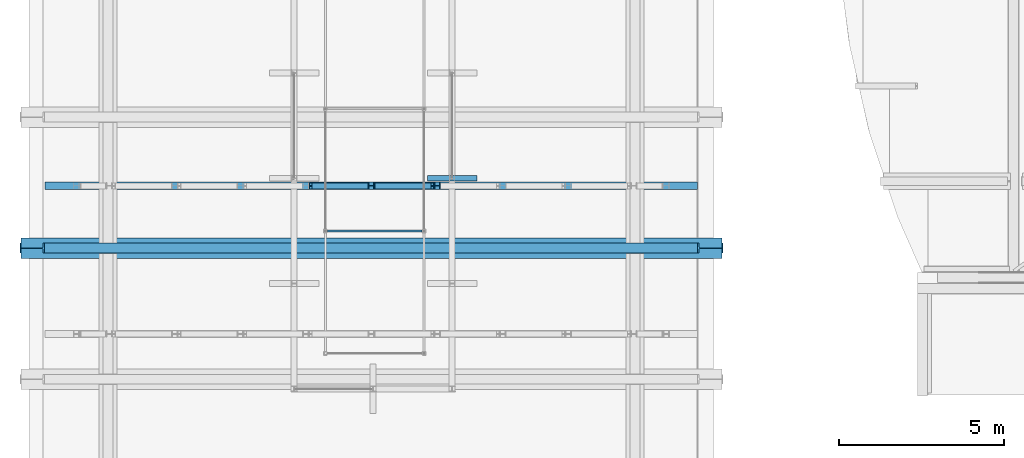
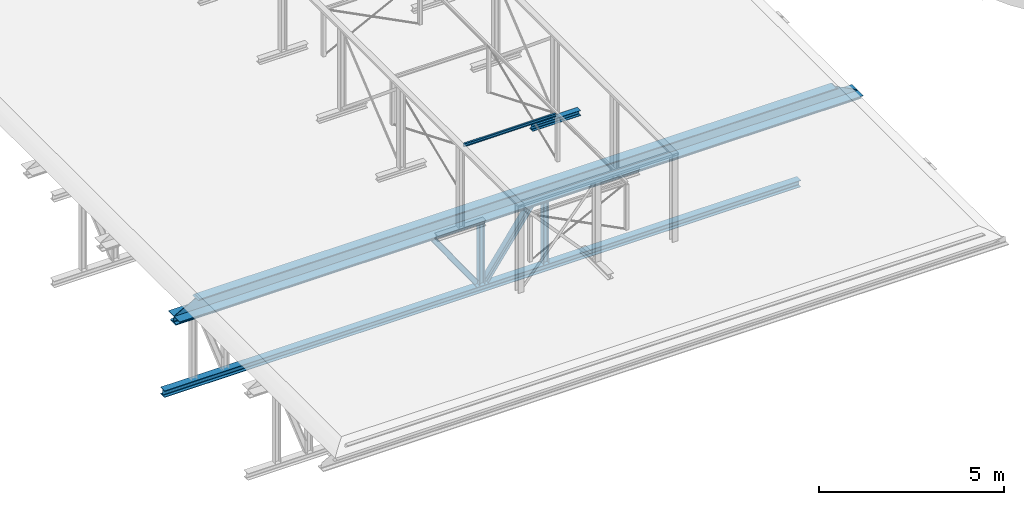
# One storey, part 11 of 50: 8 beams.
"""IFC2X3 building model written with IfcOpenShell, lengths in millimetres."""

import ifcopenshell
import ifcopenshell.guid

model = None  # the IFC model being written
_history = None  # IfcOwnerHistory: only IFC2X3 demands one
_inside = {}  # id of a spatial element -> (the spatial element, [elements in it])
_under = {}  # id of a project, library or spatial element -> (it, [spatial elements below it])
_declared = {}  # id of a project -> (the project, [libraries it declares])
_typed = {}  # id of a type object -> (the type object, [elements of that type])
_made_of = {}  # id of a material, layer set ... -> (it, [elements and type objects made of it])


def new_model(schema):
    """Start an empty IFC model of exactly this schema.

    Asked for "IFC4X3", IfcOpenShell would pick the latest addendum, in which some entities
    have other attributes; the version numbers below select the first issue.
    IFC2X3 requires an IfcOwnerHistory on every rooted entity: one is made here for all.
    """
    global model, _history
    if schema == "IFC4X3":
        model = ifcopenshell.file(schema_version=(4, 3, 0, 0))
    else:
        model = ifcopenshell.file(schema=schema)
    _inside.clear()
    _under.clear()
    _declared.clear()
    _typed.clear()
    _made_of.clear()
    _history = None
    if model.schema == "IFC2X3":
        org = make("IfcOrganization", Name="unknown")
        user = make(
            "IfcPersonAndOrganization",
            ThePerson=make("IfcPerson", FamilyName="unknown"),
            TheOrganization=org,
        )
        app = make(
            "IfcApplication",
            ApplicationDeveloper=org,
            Version="unknown",
            ApplicationFullName="unknown",
            ApplicationIdentifier="unknown",
        )
        _history = make(
            "IfcOwnerHistory",
            OwningUser=user,
            OwningApplication=app,
            ChangeAction="ADDED",
            CreationDate=0,
        )
    return model


def make(cls, **values):
    """One entity of the class cls with the attributes given. An attribute that is None is left unset."""
    return model.create_entity(
        cls, **{name: value for name, value in values.items() if value is not None}
    )


def entity(cls, *values):
    """Any entity or typed value of the class cls, its attributes in the order of the schema. None: left unset."""
    e = model.create_entity(cls)
    for i, value in enumerate(values):
        if value is not None:
            e[i] = value
    return e


def rooted(cls, **values):
    """An entity with a GlobalId (a new one), such as an element, a storey or a relation."""
    return make(cls, GlobalId=ifcopenshell.guid.new(), OwnerHistory=_history, **values)


def si_unit(unit_type, name, prefix=None):
    """IfcSIUnit, for example si_unit("LENGTHUNIT", "METRE", prefix="MILLI")."""
    return make("IfcSIUnit", UnitType=unit_type, Prefix=prefix, Name=name)


def converted_unit(unit_type, name, factor, base, dimensions=None, offset=None):
    """IfcConversionBasedUnit, such as the inch: factor (a typed value) times the base unit."""
    return make(
        "IfcConversionBasedUnit"
        if offset is None
        else "IfcConversionBasedUnitWithOffset",
        ConversionOffset=offset,
        Dimensions=None
        if dimensions is None
        else entity("IfcDimensionalExponents", *dimensions),
        UnitType=unit_type,
        Name=name,
        ConversionFactor=make(
            "IfcMeasureWithUnit", ValueComponent=factor, UnitComponent=base
        ),
    )


def derived_unit(unit_type, elements):
    """IfcDerivedUnit: a product of units, each with its exponent."""
    return make(
        "IfcDerivedUnit",
        Elements=[
            make("IfcDerivedUnitElement", Unit=unit, Exponent=power)
            for unit, power in elements
        ],
        UnitType=unit_type,
    )


def assignment(units):
    """IfcUnitAssignment: the units of a project."""
    return None if units is None else make("IfcUnitAssignment", Units=units)


def point(xyz):
    """IfcCartesianPoint."""
    return None if xyz is None else make("IfcCartesianPoint", Coordinates=xyz)


def direction(xyz):
    """IfcDirection."""
    return None if xyz is None else make("IfcDirection", DirectionRatios=xyz)


def frame(location, z_axis=None, x_axis=None):
    """IfcAxis2Placement3D, a coordinate frame: its origin and axes. An axis left out is left unset."""
    return make(
        "IfcAxis2Placement3D",
        Location=point(location),
        Axis=direction(z_axis),
        RefDirection=direction(x_axis),
    )


def frame_2d(location, x_axis=None):
    """IfcAxis2Placement2D, a coordinate frame in the plane: its origin and x axis."""
    return make(
        "IfcAxis2Placement2D", Location=point(location), RefDirection=direction(x_axis)
    )


def origin():
    """The frame at (0, 0, 0) with its axes left unset."""
    return frame((0.0, 0.0, 0.0))


def place(relative_to, where):
    """IfcLocalPlacement: puts the frame where relative to a parent placement (None: the world)."""
    return make(
        "IfcLocalPlacement", PlacementRelTo=relative_to, RelativePlacement=where
    )


def context(
    kind, dimensions, precision=None, world=None, true_north=None, identifier=None
):
    """IfcGeometricRepresentationContext, for example the 3D "Model" context."""
    return make(
        "IfcGeometricRepresentationContext",
        ContextIdentifier=identifier,
        ContextType=kind,
        CoordinateSpaceDimension=dimensions,
        Precision=precision,
        WorldCoordinateSystem=world,
        TrueNorth=true_north,
    )


def subcontext(parent, identifier, kind, view, scale=None):
    """IfcGeometricRepresentationSubContext, for example "Body" below "Model"."""
    return make(
        "IfcGeometricRepresentationSubContext",
        ContextIdentifier=identifier,
        ContextType=kind,
        ParentContext=parent,
        TargetScale=scale,
        TargetView=view,
    )


def project(units=None, contexts=None):
    """IfcProject with its units and contexts."""
    return rooted(
        "IfcProject",
        Name="project",
        RepresentationContexts=contexts,
        UnitsInContext=assignment(units),
    )


def spatial(cls, under=None, at=None, **own):
    """A site, building, storey or space (cls), placed at a placement, below another one or the project."""
    s = rooted(cls, ObjectPlacement=at, **own)
    if under is not None:
        _under.setdefault(under.id(), (under, []))[1].append(s)
    return s


def polyline(points):
    """IfcPolyline through the points."""
    return make("IfcPolyline", Points=[point(p) for p in points])


def circle_curve(where, radius):
    """IfcCircle in the frame where."""
    return make("IfcCircle", Position=where, Radius=radius)


def parameter(value):
    """IfcParameterValue: where a trimmed curve begins or ends, as a parameter of its basis curve."""
    return model.create_entity("IfcParameterValue", value)


def trimmed(basis, trim1, trim2, sense, master):
    """IfcTrimmedCurve: the piece of a basis curve between two trims."""
    return make(
        "IfcTrimmedCurve",
        BasisCurve=basis,
        Trim1=trim1,
        Trim2=trim2,
        SenseAgreement=sense,
        MasterRepresentation=master,
    )


def segment(curve, same_sense, transition):
    """IfcCompositeCurveSegment."""
    return make(
        "IfcCompositeCurveSegment",
        Transition=transition,
        SameSense=same_sense,
        ParentCurve=curve,
    )


def composite_curve(segments, self_intersect=None):
    """IfcCompositeCurve: segments joined end to end."""
    return make("IfcCompositeCurve", Segments=segments, SelfIntersect=self_intersect)


def profile(cls, at=None, kind="AREA", **sizes):
    """A parametric profile (cls). Its sizes go by their IFC names, for example OverallWidth=200.0."""
    return make(cls, ProfileType=kind, Position=at, **sizes)


def rectangle(**sizes):
    """IfcRectangleProfileDef."""
    return profile("IfcRectangleProfileDef", **sizes)


def i_section(**sizes):
    """IfcIShapeProfileDef."""
    return profile("IfcIShapeProfileDef", **sizes)


def outline(outer, holes=None, kind="AREA"):
    """IfcArbitraryClosedProfileDef: a profile drawn as a closed curve; with holes, ...WithVoids."""
    if holes is None:
        return make("IfcArbitraryClosedProfileDef", ProfileType=kind, OuterCurve=outer)
    return make(
        "IfcArbitraryProfileDefWithVoids",
        ProfileType=kind,
        OuterCurve=outer,
        InnerCurves=holes,
    )


def extrude(swept, where, along, depth):
    """IfcExtrudedAreaSolid: the profile swept, set in the frame where, extruded along a direction by depth."""
    return make(
        "IfcExtrudedAreaSolid",
        SweptArea=swept,
        Position=where,
        ExtrudedDirection=direction(along),
        Depth=depth,
    )


def clip(a, b, op="DIFFERENCE"):
    """IfcBooleanClippingResult: the solid a cut by the half space b."""
    return make(
        "IfcBooleanClippingResult", Operator=op, FirstOperand=a, SecondOperand=b
    )


def halfspace(plane, agree):
    """IfcHalfSpaceSolid: all space on one side of the plane z = 0 of the frame plane."""
    return make(
        "IfcHalfSpaceSolid",
        BaseSurface=make("IfcPlane", Position=plane),
        AgreementFlag=agree,
    )


def bounded_halfspace(plane, agree, where, boundary):
    """IfcPolygonalBoundedHalfSpace: a half space limited to a polygon's prism."""
    return make(
        "IfcPolygonalBoundedHalfSpace",
        BaseSurface=make("IfcPlane", Position=plane),
        AgreementFlag=agree,
        Position=where,
        PolygonalBoundary=boundary,
    )


def shape(context_of_items, identifier, shape_type, items):
    """IfcShapeRepresentation: the items that make up one representation, for example the "Body"."""
    return make(
        "IfcShapeRepresentation",
        ContextOfItems=context_of_items,
        RepresentationIdentifier=identifier,
        RepresentationType=shape_type,
        Items=items,
    )


def source(mapping_origin, context_of_items, identifier, shape_type, items):
    """IfcRepresentationMap: a shape defined once, which mapped items show again and again."""
    return make(
        "IfcRepresentationMap",
        MappingOrigin=mapping_origin,
        MappedRepresentation=shape(context_of_items, identifier, shape_type, items),
    )


def transform(
    local_origin,
    x_axis=None,
    y_axis=None,
    z_axis=None,
    scale=None,
    scale2=None,
    scale3=None,
    uniform=True,
):
    """IfcCartesianTransformationOperator3D, or its non-uniform kind. x_axis, y_axis, z_axis: its Axis1, 2, 3."""
    if uniform:
        return make(
            "IfcCartesianTransformationOperator3D",
            Axis1=direction(x_axis),
            Axis2=direction(y_axis),
            LocalOrigin=point(local_origin),
            Scale=scale,
            Axis3=direction(z_axis),
        )
    return make(
        "IfcCartesianTransformationOperator3DnonUniform",
        Axis1=direction(x_axis),
        Axis2=direction(y_axis),
        LocalOrigin=point(local_origin),
        Scale=scale,
        Axis3=direction(z_axis),
        Scale2=scale2,
        Scale3=scale3,
    )


def mapped(mapping_source, mapping_target):
    """IfcMappedItem: shows the shape of a source again, moved by a transform."""
    return make(
        "IfcMappedItem", MappingSource=mapping_source, MappingTarget=mapping_target
    )


def material(Name=None, Category=None):
    """IfcMaterial."""
    return make("IfcMaterial", Name=Name, Category=Category)


def material_list(materials):
    """IfcMaterialList."""
    return make("IfcMaterialList", Materials=materials)


def made_of(thing, what):
    """Note that an element or type object is made of a material, layer set ...; save() writes the relation."""
    if what is not None:
        _made_of.setdefault(what.id(), (what, []))[1].append(thing)
    return thing


def type_object(cls, material=None, **own):
    """A type object (cls), such as IfcWallType, which elements share."""
    return made_of(rooted(cls, **own), material)


def type_shapes(of_type, sources):
    """Give a type object the sources (RepresentationMaps) that its elements show as mapped items."""
    of_type.RepresentationMaps = sources


def element(
    cls,
    number,
    at=None,
    inside=None,
    cuts=None,
    type_object=None,
    material=None,
    context=None,
    identifier="Body",
    shape_type=None,
    held_by="IfcProductDefinitionShape",
    body=None,
    shapes=None,
    **own,
):
    """One element of the class cls, such as IfcWall. Its Tag is "e" and its number.

    at: its placement. inside: the storey or other place that contains it. cuts: it is an
    opening in that element (IfcRelVoidsElement). A single representation is given by context,
    identifier, shape_type and body (its items); several are given by shapes. held_by: the class
    of the entity that holds the representations. save() writes the other relations.
    """
    e = rooted(cls, Tag="e%d" % number, ObjectPlacement=at, **own)
    if body is not None:
        shapes = [shape(context, identifier, shape_type, body)]
    if shapes is not None:
        e.Representation = make(held_by, Representations=shapes)
    if inside is not None:
        _inside.setdefault(inside.id(), (inside, []))[1].append(e)
    if cuts is not None:
        rooted(
            "IfcRelVoidsElement", RelatingBuildingElement=cuts, RelatedOpeningElement=e
        )
    if type_object is not None:
        _typed.setdefault(type_object.id(), (type_object, []))[1].append(e)
    return made_of(e, material)


def aggregate(whole, parts):
    """IfcRelAggregates: a whole, such as a stair, and the parts it consists of."""
    return rooted("IfcRelAggregates", RelatingObject=whole, RelatedObjects=parts)


def save(model, path):
    """Write the relations noted so far, then the file.

    IfcRelAggregates (storeys below a building ...), IfcRelContainedInSpatialStructure (elements
    in a storey), IfcRelDefinesByType, IfcRelAssociatesMaterial and IfcRelDeclares: one each for
    every whole, place, type object, material and project.
    """
    for whole, parts in _under.values():
        aggregate(whole, parts)
    for where, things in _inside.values():
        rooted(
            "IfcRelContainedInSpatialStructure",
            RelatedElements=things,
            RelatingStructure=where,
        )
    for kind, things in _typed.values():
        rooted("IfcRelDefinesByType", RelatedObjects=things, RelatingType=kind)
    for what, things in _made_of.values():
        rooted("IfcRelAssociatesMaterial", RelatedObjects=things, RelatingMaterial=what)
    for by, libraries in _declared.values():
        rooted("IfcRelDeclares", RelatingContext=by, RelatedDefinitions=libraries)
    model.write(path)


model = new_model("IFC2X3")

# Units and contexts
model_context = context("Model", 3, precision=0.01, world=origin(), true_north=direction((6.12303176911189e-17, 1.0)))
body_context = subcontext(model_context, "Body", "Model", "MODEL_VIEW")
ifc_project = project(units=[si_unit("LENGTHUNIT", "METRE", prefix="MILLI"), si_unit("AREAUNIT", "SQUARE_METRE", prefix="MILLI"), si_unit("VOLUMEUNIT", "CUBIC_METRE"), converted_unit("PLANEANGLEUNIT", "DEGREE", entity("IfcRatioMeasure", 0.0174532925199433), si_unit("PLANEANGLEUNIT", "RADIAN"), dimensions=[0, 0, 0, 0, 0, 0, 0]), si_unit("MASSUNIT", "GRAM", prefix="KILO"), derived_unit("MASSDENSITYUNIT", [(si_unit("MASSUNIT", "GRAM", prefix="KILO"), 1), (si_unit("LENGTHUNIT", "METRE"), -3)]), derived_unit("MOMENTOFINERTIAUNIT", [(si_unit("LENGTHUNIT", "METRE"), 4)]), si_unit("TIMEUNIT", "SECOND"), si_unit("FREQUENCYUNIT", "HERTZ"), si_unit("THERMODYNAMICTEMPERATUREUNIT", "DEGREE_CELSIUS"), derived_unit("THERMALTRANSMITTANCEUNIT", [(si_unit("MASSUNIT", "GRAM", prefix="KILO"), 1), (si_unit("THERMODYNAMICTEMPERATUREUNIT", "KELVIN"), -1), (si_unit("TIMEUNIT", "SECOND"), -3)]), derived_unit("VOLUMETRICFLOWRATEUNIT", [(si_unit("LENGTHUNIT", "METRE"), 3), (si_unit("TIMEUNIT", "SECOND"), -1)]), si_unit("ELECTRICCURRENTUNIT", "AMPERE"), si_unit("ELECTRICVOLTAGEUNIT", "VOLT"), si_unit("POWERUNIT", "WATT"), si_unit("FORCEUNIT", "NEWTON", prefix="KILO"), si_unit("ILLUMINANCEUNIT", "LUX"), si_unit("LUMINOUSFLUXUNIT", "LUMEN"), si_unit("LUMINOUSINTENSITYUNIT", "CANDELA"), derived_unit("USERDEFINED", [(si_unit("MASSUNIT", "GRAM", prefix="KILO"), -1), (si_unit("LENGTHUNIT", "METRE"), -2), (si_unit("TIMEUNIT", "SECOND"), 3), (si_unit("LUMINOUSFLUXUNIT", "LUMEN"), 1)]), derived_unit("LINEARVELOCITYUNIT", [(si_unit("LENGTHUNIT", "METRE"), 1), (si_unit("TIMEUNIT", "SECOND"), -1)]), si_unit("PRESSUREUNIT", "PASCAL"), derived_unit("USERDEFINED", [(si_unit("LENGTHUNIT", "METRE"), -2), (si_unit("MASSUNIT", "GRAM", prefix="KILO"), 1), (si_unit("TIMEUNIT", "SECOND"), -2)]), derived_unit("LINEARFORCEUNIT", [(si_unit("MASSUNIT", "GRAM", prefix="KILO"), 1), (si_unit("LENGTHUNIT", "METRE"), 1), (si_unit("TIMEUNIT", "SECOND"), -2), (si_unit("LENGTHUNIT", "METRE"), -1)]), derived_unit("PLANARFORCEUNIT", [(si_unit("MASSUNIT", "GRAM", prefix="KILO"), 1), (si_unit("LENGTHUNIT", "METRE"), 1), (si_unit("TIMEUNIT", "SECOND"), -2), (si_unit("LENGTHUNIT", "METRE"), -2)])], contexts=[model_context])

# Site, building, storey
site_placement = place(None, origin())
site = spatial("IfcSite", under=ifc_project, at=site_placement, Name="Theater aan de Parade", CompositionType="ELEMENT")
building_placement = place(site_placement, origin())
building = spatial("IfcBuilding", under=site, at=building_placement, Name="Theater aan de Parade", CompositionType="ELEMENT")
storey_placement = place(building_placement, frame((0.0, 0.0, 15820.0)))
storey = spatial("IfcBuildingStorey", under=building, at=storey_placement, Name="04 vierde verdieping", CompositionType="ELEMENT", Elevation=15820.0)

# Beams
ifc_material_1 = material(Name="00_PBT_MAT_staal_S355")
beam_type_1 = type_object("IfcBeamType", Name="28_PBT_SF_staal_H-profiel:S355_HE220B", PredefinedType="NOTDEFINED")
beam_1_placement = place(storey_placement, frame((16193.8569884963, 23568.2922985, -4340.0)))
element("IfcBeam", 1, at=beam_1_placement, inside=storey, type_object=beam_type_1, material=ifc_material_1, Name="28_PBT_SF_staal_H-profiel:S355_HE220B", ObjectType="28_PBT_SF_staal_H-profiel:S355_HE220B", context=body_context, shape_type="SweptSolid", body=[
    extrude(i_section(OverallWidth=220.000000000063, OverallDepth=220.0, WebThickness=9.49999999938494, FlangeThickness=15.9999999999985, FilletRadius=18.0000000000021, at=frame_2d((-1.08713038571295e-12, 2.16715534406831e-12), x_axis=(0.0, 1.0))), frame((0.0, 0.0, 0.0), z_axis=(1.0, 0.0, 0.0), x_axis=(0.0, 0.0, -1.0)), (0.0, 0.0, 1.0), 19820.0),
])
beam_type_2 = type_object("IfcBeamType", Name="28_PBT_SF_staal_H-profiel:S355_HE180A", PredefinedType="NOTDEFINED")
beam_2_placement = place(storey_placement, frame((26103.8569884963, 23568.2922984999, -4340.0), z_axis=(1.0, 0.0, 0.0), x_axis=(0.0, 0.0, 1.0)))
element("IfcBeam", 2, at=beam_2_placement, inside=storey, type_object=beam_type_2, material=ifc_material_1, Name="28_PBT_SF_staal_H-profiel:S355_HE180A", ObjectType="28_PBT_SF_staal_H-profiel:S355_HE180A", context=body_context, shape_type="SweptSolid", body=[
    extrude(i_section(OverallWidth=179.999999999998, OverallDepth=171.0, WebThickness=6.00000000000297, FlangeThickness=9.49999999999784, FilletRadius=15.0000000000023, at=frame_2d((-6.49436060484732e-12, 2.16715534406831e-12), x_axis=(0.0, 1.0))), frame((122.7, 0.0, 0.0), z_axis=(1.0, 0.0, 0.0), x_axis=(0.0, 0.0, -1.0)), (0.0, 0.0, 1.0), 2574.60000000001),
])
beam_3_placement = place(storey_placement, frame((28095.8569884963, 23568.2922984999, -4340.0), z_axis=(1.0, 0.0, 0.0), x_axis=(0.0, 0.0, 1.0)))
element("IfcBeam", 3, at=beam_3_placement, inside=storey, type_object=beam_type_2, material=ifc_material_1, Name="28_PBT_SF_staal_H-profiel:S355_HE180A", ObjectType="28_PBT_SF_staal_H-profiel:S355_HE180A", context=body_context, shape_type="SweptSolid", body=[
    extrude(i_section(OverallWidth=179.999999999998, OverallDepth=171.0, WebThickness=6.00000000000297, FlangeThickness=9.49999999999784, FilletRadius=15.0000000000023, at=frame_2d((2.16715534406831e-12, 2.16715534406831e-12), x_axis=(0.0, 1.0))), frame((122.7, 0.0, 0.0), z_axis=(1.0, 0.0, 0.0), x_axis=(0.0, 0.0, -1.0)), (0.0, 0.0, 1.0), 2574.60000000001),
])
beam_4_placement = place(storey_placement, frame((24111.8569884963, 23568.2922984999, -1520.0), z_axis=(0.816775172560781, 0.0, 0.576956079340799), x_axis=(0.576956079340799, 0.0, -0.816775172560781)))
element("IfcBeam", 4, at=beam_4_placement, inside=storey, type_object=beam_type_2, material=ifc_material_1, Name="28_PBT_SF_staal_H-profiel:S355_HE180A", ObjectType="28_PBT_SF_staal_H-profiel:S355_HE180A", context=body_context, shape_type="Clipping", body=[
    clip(clip(extrude(outline(composite_curve([segment(polyline([(76.0, -90.0), (85.5000000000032, -90.0)]), True, "CONTINUOUS"), segment(polyline([(85.4999999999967, -90.0), (85.4999999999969, 90.0)]), True, "CONTINUOUS"), segment(polyline([(85.4999999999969, 90.0), (76.0, 90.0)]), True, "CONTINUOUS"), segment(polyline([(76.0, 90.0), (76.0, 18.0)]), True, "CONTINUOUS"), segment(trimmed(circle_curve(frame_2d((61.0, 18.0), x_axis=(1.0, 0.0)), 14.9999999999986), [parameter(269.999999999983)], [parameter(0.0)], True, "PARAMETER"), False, "CONTINUOUS"), segment(polyline([(61.0, 3.0), (-61.0, 3.0)]), True, "CONTINUOUS"), segment(trimmed(circle_curve(frame_2d((-61.0, 18.0), x_axis=(0.0, -1.0)), 14.9999999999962), [parameter(269.999999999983)], [parameter(0.0)], True, "PARAMETER"), False, "CONTINUOUS"), segment(polyline([(-76.0, 18.0), (-76.0, 90.0)]), True, "CONTINUOUS"), segment(polyline([(-76.0, 90.0), (-85.5000000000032, 90.0)]), True, "CONTINUOUS"), segment(polyline([(-85.4999999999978, 90.0), (-85.5000000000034, -90.0)]), True, "CONTINUOUS"), segment(polyline([(-85.499999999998, -90.0), (-76.0, -90.0)]), True, "CONTINUOUS"), segment(polyline([(-76.0, -90.0), (-76.0, -18.0)]), True, "CONTINUOUS"), segment(trimmed(circle_curve(frame_2d((-61.0, -18.0), x_axis=(-1.0, 0.0)), 14.9999999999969), [parameter(269.999999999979)], [parameter(0.0)], True, "PARAMETER"), False, "CONTINUOUS"), segment(polyline([(-61.0, -3.0), (61.0, -3.0)]), True, "CONTINUOUS"), segment(trimmed(circle_curve(frame_2d((61.0, -18.0), x_axis=(0.0, 1.0)), 14.9999999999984), [parameter(269.999999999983)], [parameter(0.0)], True, "PARAMETER"), False, "CONTINUOUS"), segment(polyline([(76.0, -18.0), (76.0, -90.0)]), True, "CONTINUOUS")], self_intersect=False)), frame((207.771728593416, 0.0, 0.0), z_axis=(1.0, 0.0, 0.0), x_axis=(0.0, 0.0, -1.0)), (0.0, 0.0, 1.0), 3037.0590394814), halfspace(frame((2280.29204276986, 110.0, -1481.59297368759), z_axis=(-0.576956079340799, 0.0, -0.816775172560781), x_axis=(-0.816775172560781, 0.0, 0.576956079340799)), False)), halfspace(frame((3307.85082007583, -110.0, -26.9163913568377), z_axis=(0.576956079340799, 0.0, 0.816775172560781), x_axis=(-0.816775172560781, 0.0, 0.576956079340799)), False)),
])
beam_5_placement = place(storey_placement, frame((26103.8569884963, 23568.2922984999, -4340.0), z_axis=(0.816775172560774, 0.0, -0.576956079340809), x_axis=(0.576956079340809, 0.0, 0.816775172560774)))
element("IfcBeam", 5, at=beam_5_placement, inside=storey, type_object=beam_type_2, material=ifc_material_1, Name="28_PBT_SF_staal_H-profiel:S355_HE180A", ObjectType="28_PBT_SF_staal_H-profiel:S355_HE180A", context=body_context, shape_type="Clipping", body=[
    clip(clip(extrude(outline(composite_curve([segment(polyline([(76.0, -90.0), (85.5000000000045, -90.0)]), True, "CONTINUOUS"), segment(polyline([(85.5000000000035, -90.0), (85.5000000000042, 90.0)]), True, "CONTINUOUS"), segment(polyline([(85.5000000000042, 90.0), (76.0, 90.0)]), True, "CONTINUOUS"), segment(polyline([(76.0, 90.0), (76.0, 18.0)]), True, "CONTINUOUS"), segment(trimmed(circle_curve(frame_2d((61.0, 18.0), x_axis=(1.0, 0.0)), 14.9999999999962), [parameter(269.999999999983)], [parameter(0.0)], True, "PARAMETER"), False, "CONTINUOUS"), segment(polyline([(61.0, 3.0), (-61.0, 3.0)]), True, "CONTINUOUS"), segment(trimmed(circle_curve(frame_2d((-61.0, 18.0), x_axis=(0.0, -1.0)), 14.9999999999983), [parameter(269.999999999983)], [parameter(0.0)], True, "PARAMETER"), False, "CONTINUOUS"), segment(polyline([(-76.0, 18.0), (-76.0, 90.0)]), True, "CONTINUOUS"), segment(polyline([(-76.0, 90.0), (-85.4999999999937, 90.0)]), True, "CONTINUOUS"), segment(polyline([(-85.4999999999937, 90.0), (-85.4999999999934, -90.0)]), True, "CONTINUOUS"), segment(polyline([(-85.4999999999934, -90.0), (-76.0, -90.0)]), True, "CONTINUOUS"), segment(polyline([(-76.0, -90.0), (-76.0, -18.0)]), True, "CONTINUOUS"), segment(trimmed(circle_curve(frame_2d((-61.0, -18.0), x_axis=(-1.0, 0.0)), 14.9999999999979), [parameter(269.999999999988)], [parameter(0.0)], True, "PARAMETER"), False, "CONTINUOUS"), segment(polyline([(-61.0, -3.0), (61.0, -3.0)]), True, "CONTINUOUS"), segment(trimmed(circle_curve(frame_2d((61.0, -18.0), x_axis=(0.0, 1.0)), 14.9999999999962), [parameter(269.999999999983)], [parameter(0.0)], True, "PARAMETER"), False, "CONTINUOUS"), segment(polyline([(76.0, -18.0), (76.0, -90.0)]), True, "CONTINUOUS")], self_intersect=False)), frame((207.77172859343, 0.0, 0.0), z_axis=(1.0, 0.0, 0.0), x_axis=(0.0, 0.0, -1.0)), (0.0, 0.0, 1.0), 3037.0590394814), halfspace(frame((144.751676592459, -110.0, 26.9163913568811), z_axis=(-0.576956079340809, 0.0, -0.816775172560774), x_axis=(0.816775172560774, 0.0, -0.576956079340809)), False)), halfspace(frame((1172.31045389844, 110.0, 1481.59297368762), z_axis=(0.576956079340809, 0.0, 0.816775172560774), x_axis=(0.816775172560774, 0.0, -0.576956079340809)), False)),
])
beam_6_placement = place(storey_placement, frame((27803.8569986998, 23798.8337248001, 0.0)))
element("IfcBeam", 6, at=beam_6_placement, inside=storey, type_object=beam_type_2, material=ifc_material_1, Name="28_PBT_SF_staal_H-profiel:S355_HE180A", ObjectType="28_PBT_SF_staal_H-profiel:S355_HE180A", context=body_context, shape_type="SweptSolid", body=[
    extrude(i_section(OverallWidth=180.000000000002, OverallDepth=171.0, WebThickness=6.00000000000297, FlangeThickness=9.49999999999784, FilletRadius=15.0000000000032, at=frame_2d((-2.16715534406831e-12, -6.49436060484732e-12), x_axis=(0.0, 1.0))), frame((0.0, 0.0, 184.499999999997), z_axis=(1.0, 0.0, 0.0), x_axis=(0.0, 0.0, -1.0)), (0.0, 0.0, 1.0), 1500.00000000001),
])
ifc_material_2 = material(Name="00_PBT_MAT_Lucht")
ifc_material_list = material_list([ifc_material_2, ifc_material_1])
beam_type_3 = type_object("IfcBeamType", Name="28_PBT_SF_staal_H-profiel_met_oplegstrippen (void):S355_HE600B + oplegstrippen d=15_vloer h=500", PredefinedType="BEAM", material=ifc_material_list)
shared_shape = source(origin(), body_context, "Body", "Clipping", [
    clip(clip(clip(clip(extrude(i_section(OverallWidth=300.00000000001, OverallDepth=600.0, WebThickness=15.4999999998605, FlangeThickness=29.9999999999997, FilletRadius=26.9999999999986, at=frame_2d((1.08002495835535e-12, -2.1600499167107e-12), x_axis=(0.0, 1.0))), frame((15427.3042052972, 21674.2274014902, 15490.0), z_axis=(1.0, 0.0, 0.0), x_axis=(0.0, 0.0, -1.0)), (0.0, 0.0, 1.0), 21352.8563544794), bounded_halfspace(frame((36780.1605597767, 44286.3639688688, 15190.0), z_axis=(0.990313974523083, 0.0, 0.138846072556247), x_axis=(0.0, -1.0, 0.0)), False, frame((15427.3042052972, 21674.2274014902, 15490.0), z_axis=(1.0, 0.0, 0.0), x_axis=(0.0, 0.0, -1.0)), polyline([(101.500000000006, 7.74999999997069), (101.499999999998, -7.75000000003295), (243.0, -7.75000000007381), (270.0, -34.750000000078), (270.0, -150.0), (300.0, -150.0), (300.0, 150.0), (270.0, 150.0), (270.0, 34.7499999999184), (243.0, 7.74999999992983), (101.500000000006, 7.74999999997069)]))), bounded_halfspace(frame((36752.3300473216, 44286.3639688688, 15388.5000000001), z_axis=(0.474088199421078, 0.0, 0.880477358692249), x_axis=(0.0, -1.0, 0.0)), False, frame((15427.3042052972, 21674.2274014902, 15490.0), z_axis=(1.0, 0.0, 0.0), x_axis=(0.0, 0.0, -1.0)), polyline([(101.500000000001, -7.75000000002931), (101.500000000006, 7.74999999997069), (-64.188320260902, 7.75000000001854), (-243.0, 7.75000000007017), (-270.0, 34.7500000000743), (-270.0, 150.0), (-300.0, 150.0), (-300.0, -150.0), (-270.0, -150.0), (-270.0, -34.749999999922), (-243.0, -7.74999999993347), (-64.1883202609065, -7.7499999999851), (101.500000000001, -7.75000000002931)]))), bounded_halfspace(frame((15427.3042052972, -937.909165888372, 15190.0), z_axis=(-0.989382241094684, 0.0, 0.145336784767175), x_axis=(0.0, 1.0, 0.0)), False, frame((15427.3042052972, 21674.2274014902, 15490.0), z_axis=(1.0, 0.0, 0.0), x_axis=(0.0, 0.0, -1.0)), polyline([(100.0, -7.7500000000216), (100.0, 7.7499999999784), (243.0, 7.74999999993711), (270.0, 34.7499999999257), (270.0, 150.0), (300.0, 150.0), (300.0, -150.0), (270.0, -150.0), (270.0, -34.7500000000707), (243.0, -7.75000000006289), (100.0, -7.7500000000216)]))), bounded_halfspace(frame((15456.6835045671, -937.909165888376, 15390.0), z_axis=(-0.484809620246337, 0.0, 0.874619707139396), x_axis=(0.0, 1.0, 0.0)), False, frame((15427.3042052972, 21674.2274014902, 15490.0), z_axis=(1.0, 0.0, 0.0), x_axis=(0.0, 0.0, -1.0)), polyline([(100.0, 7.7499999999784), (100.0, -7.7500000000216), (-68.1459013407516, -7.74999999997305), (-243.0, -7.74999999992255), (-270.0, -34.7499999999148), (-270.0, -150.0), (-300.0, -150.0), (-300.0, 150.0), (-270.0, 150.0), (-270.0, 34.7500000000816), (-243.0, 7.75000000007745), (-68.1459013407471, 7.75000000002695), (100.0, 7.7499999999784)]))),
    clip(clip(clip(extrude(rectangle(XDim=15.0000000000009, YDim=300.000000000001, at=frame_2d((8.66862137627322e-12, 1.08268949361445e-12), x_axis=(0.0, 1.0))), frame((15454.4800571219, 21831.9774014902, 15382.5), z_axis=(1.0, 0.0, 0.0), x_axis=(0.0, 1.0, 0.0)), (0.0, 0.0, 1.0), 21299.7427454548), halfspace(frame((15427.3042052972, -937.909165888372, 15190.0), z_axis=(-0.989382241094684, 0.0, 0.145336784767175), x_axis=(0.0, 1.0, 0.0)), False)), bounded_halfspace(frame((36780.1605597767, 44286.3639688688, 15190.0), z_axis=(0.990313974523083, 0.0, 0.138846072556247), x_axis=(0.0, -1.0, 0.0)), False, frame((15454.4800571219, 21831.9774014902, 15382.5), z_axis=(1.0, 0.0, 0.0), x_axis=(0.0, 1.0, 0.0)), polyline([(150.0, 6.0), (-150.0, 6.0), (-150.0, -7.49999999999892), (150.0, -7.49999999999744), (150.0, 6.0)]))), bounded_halfspace(frame((36752.3300473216, 44286.3639688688, 15388.5000000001), z_axis=(0.474088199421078, 0.0, 0.880477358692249), x_axis=(0.0, -1.0, 0.0)), False, frame((15454.4800571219, 21831.9774014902, 15382.5), z_axis=(1.0, 0.0, 0.0), x_axis=(0.0, 1.0, 0.0)), polyline([(-150.0, 6.0), (150.0, 6.0), (150.0, 7.50000000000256), (-150.0, 7.49999999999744), (-150.0, 6.0)]))),
    clip(clip(extrude(rectangle(XDim=11.9999999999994, YDim=300.000000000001, at=frame_2d((2.16582307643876e-12, 1.08286712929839e-11), x_axis=(1.0, 0.0))), frame((15454.7004018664, 21516.4774014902, 15382.5), z_axis=(1.0, 0.0, 0.0), x_axis=(0.0, 0.0, -1.0)), (0.0, 0.0, 1.0), 21299.3120945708), halfspace(frame((36780.1605597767, 44286.3639688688, 15190.0), z_axis=(0.990313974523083, 0.0, 0.138846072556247), x_axis=(0.0, -1.0, 0.0)), False)), halfspace(frame((15427.3042052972, -937.909165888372, 15190.0), z_axis=(-0.989382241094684, 0.0, 0.145336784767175), x_axis=(0.0, 1.0, 0.0)), False)),
])
type_shapes(beam_type_3, [shared_shape])
beam_7_placement = place(storey_placement, frame((0.0, 0.0, -15820.0)))
element("IfcBeam", 7, at=beam_7_placement, inside=storey, type_object=beam_type_3, material=ifc_material_1, Name="28_PBT_SF_staal_H-profiel_met_oplegstrippen (void):S355_HE600B + oplegstrippen d=15_vloer h=500", ObjectType="28_PBT_SF_staal_H-profiel_met_oplegstrippen (void):S355_HE600B + oplegstrippen d=15_vloer h=500", context=body_context, shape_type="MappedRepresentation", body=[
    mapped(shared_shape, transform((0.0, 0.0, 0.0), scale=1.0)),
])
beam_type_4 = type_object("IfcBeamType", Name="28_PBT_SF_staal_IPE-profiel:S355_IPE100", PredefinedType="NOTDEFINED")
beam_8_placement = place(storey_placement, frame((24703.8569986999, 22193.8337248, 1680.0)))
element("IfcBeam", 8, at=beam_8_placement, inside=storey, type_object=beam_type_4, material=ifc_material_1, Name="28_PBT_SF_staal_IPE-profiel:S355_IPE100", ObjectType="28_PBT_SF_staal_IPE-profiel:S355_IPE100", context=body_context, shape_type="SweptSolid", body=[
    extrude(outline(composite_curve([segment(polyline([(44.3000000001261, -27.4999999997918), (50.0, -27.4999999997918)]), True, "CONTINUOUS"), segment(polyline([(50.0, -27.4999999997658), (50.0, 27.5000000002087)]), True, "CONTINUOUS"), segment(polyline([(50.0, 27.5000000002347), (44.2999999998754, 27.5000000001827)]), True, "CONTINUOUS"), segment(polyline([(44.2999999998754, 27.5000000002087), (44.2999999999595, 9.0500000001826)]), True, "CONTINUOUS"), segment(trimmed(circle_curve(frame_2d((37.2999999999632, 9.05000000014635), x_axis=(1.0, 0.0)), 6.99999999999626), [parameter(269.999999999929)], [parameter(0.0)], True, "PARAMETER"), False, "CONTINUOUS"), segment(polyline([(37.2999999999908, 2.05000000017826), (-37.3000000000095, 2.04999999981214)]), True, "CONTINUOUS"), segment(trimmed(circle_curve(frame_2d((-37.3000000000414, 9.04999999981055), x_axis=(0.0, -1.0)), 6.99999999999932), [parameter(270.0)], [parameter(0.0)], True, "PARAMETER"), False, "CONTINUOUS"), segment(polyline([(-44.300000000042, 9.04999999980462), (-44.3000000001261, 27.4999999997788)]), True, "CONTINUOUS"), segment(polyline([(-44.300000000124, 27.4999999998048), (-50.0, 27.4999999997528)]), True, "CONTINUOUS"), segment(polyline([(-50.0, 27.4999999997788), (-50.0, -27.5000000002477)]), True, "CONTINUOUS"), segment(polyline([(-50.0, -27.5000000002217), (-44.2999999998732, -27.5000000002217)]), True, "CONTINUOUS"), segment(polyline([(-44.2999999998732, -27.5000000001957), (-44.2999999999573, -9.05000000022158)]), True, "CONTINUOUS"), segment(trimmed(circle_curve(frame_2d((-37.2999999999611, -9.05000000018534), x_axis=(-1.0, 0.0)), 6.99999999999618), [parameter(269.999999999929)], [parameter(0.0)], True, "PARAMETER"), False, "CONTINUOUS"), segment(polyline([(-37.2999999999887, -2.05000000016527), (37.3000000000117, -2.04999999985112)]), True, "CONTINUOUS"), segment(trimmed(circle_curve(frame_2d((37.3000000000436, -9.04999999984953), x_axis=(0.0, 1.0)), 6.99999999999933), [parameter(270.0)], [parameter(0.0)], True, "PARAMETER"), False, "CONTINUOUS"), segment(polyline([(44.300000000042, -9.04999999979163), (44.3000000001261, -27.4999999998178)]), True, "CONTINUOUS")], self_intersect=False)), frame((62.6999999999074, 0.0, -50.0), z_axis=(1.0, 0.0, 0.0), x_axis=(0.0, 0.0, -1.0)), (0.0, 0.0, 1.0), 2874.59999999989),
])

save(model, "model.ifc")
